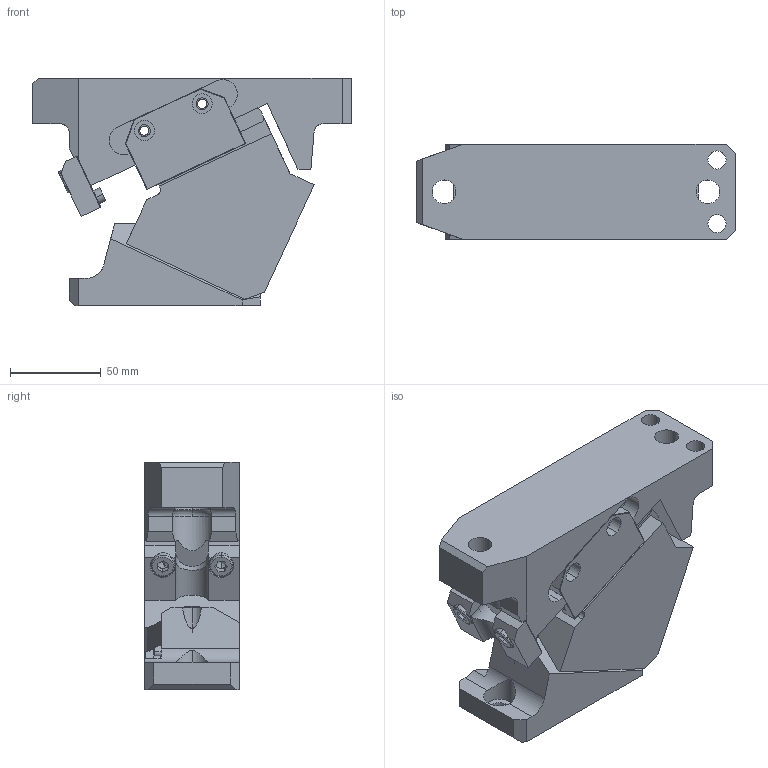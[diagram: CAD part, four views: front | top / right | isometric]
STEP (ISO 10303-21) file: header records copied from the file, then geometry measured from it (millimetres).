
FILE_DESCRIPTION (( 'STEP AP203' ), '1' );
FILE_NAME ('CLD052.25.step', '2014-05-05T08:34:27', ( '' ), ( '' ), 'SwSTEP 2.0', 'SolidWorks 2013', '' );
FILE_SCHEMA (( 'CONFIG_CONTROL_DESIGN' ));
Length unit declared in the file: millimetre
Products named in the file (4): CLD05225-02 CAM SLIDER; CLD05225-03 CAM DRIVER; CLD052.25; CLD05225-01 CAM BASE
Assembly tree (3 placements, depth 2):
  CLD052.25
    CLD05225-01 CAM BASE
    CLD05225-02 CAM SLIDER
    CLD05225-03 CAM DRIVER
Bounding box: 175 x 52 x 125 mm (x, y, z)
Volume: 665277.1 mm3; surface area: 115498.5 mm2
Topology: 3 solids, 7 shells, 374 faces, 972 edges, 616 vertices
Faces by surface type: plane 229, cylinder 120, cone 14, torus 11
Entity records: 11940 total; most frequent: CARTESIAN_POINT 2275, DIRECTION 1944, ORIENTED_EDGE 1924, EDGE_CURVE 962, AXIS2_PLACEMENT_3D 651, LINE 642, VECTOR 642, VERTEX_POINT 616
